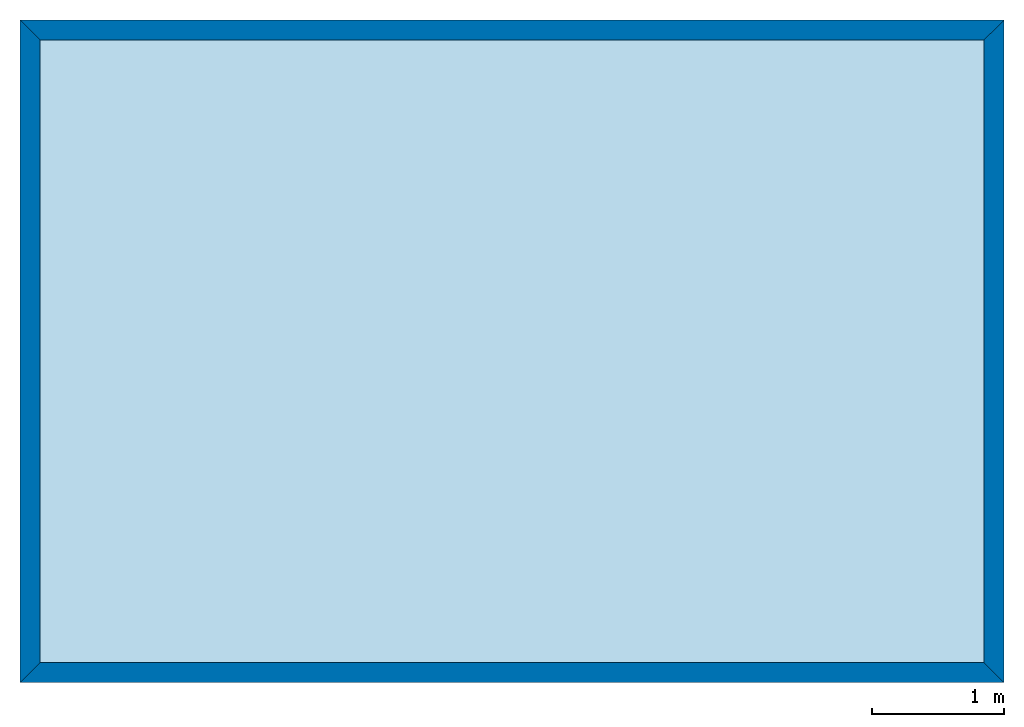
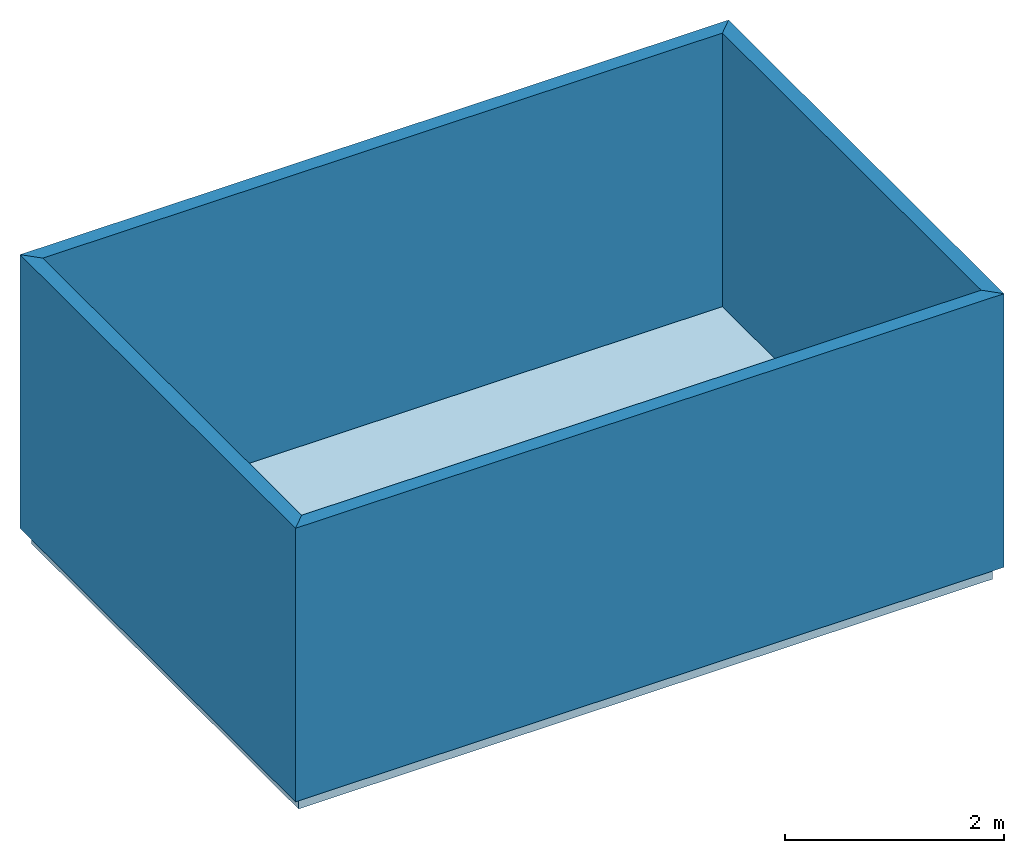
# One storey: 4 walls, 1 slab.
"""IFC4X3_ADD2 building model written with IfcOpenShell, lengths in inches."""

from ifc_helpers import new_model, entity, si_unit, converted_unit, frame, origin, place, context, project, spatial, polyline, outline, extrude, material, layer, layer_set, layer_usage, element, save


model = new_model("IFC4X3_ADD2")

# Units and contexts
model_context = context("Model", 3, precision=1e-05, world=origin())
plan_context = context("Plan", 2, precision=1e-05, world=origin())
ifc_project = project(units=[converted_unit("LENGTHUNIT", "inch", entity("IfcLengthMeasure", 0.0254), si_unit("LENGTHUNIT", "METRE"), dimensions=[1, 0, 0, 0, 0, 0, 0])], contexts=[model_context, plan_context])

# Site, building, storey
site_placement = place(None, origin())
site = spatial("IfcSite", under=ifc_project, at=site_placement, Name="Site #1", CompositionType="ELEMENT")
building_placement = place(site_placement, frame((576.0, 240.0, 48.0)))
building = spatial("IfcBuilding", under=site, at=building_placement, Name="Building #1", CompositionType="ELEMENT")
storey_placement = place(building_placement, origin())
storey = spatial("IfcBuildingStorey", under=building, at=storey_placement, Name="Ground Level", CompositionType="ELEMENT", Elevation=0.0)

# Slab
ifc_material = material(Name="Concrete (Nominal)", Category="Concrete")
ifc_layer = layer(ifc_material, 6.0, Name="Core")
ifc_layer_set = layer_set([ifc_layer])
ifc_layer_usage = layer_usage(ifc_layer_set, "AXIS3", "POSITIVE", 0.0)
slab_placement = place(storey_placement, origin())
element("IfcSlab", 1, at=slab_placement, inside=storey, material=ifc_layer_usage, Name="Slab #1", PredefinedType="BASESLAB", context=model_context, shape_type="SweptSolid", body=[
    extrude(outline(polyline([(0.0, 0.0), (288.0, 0.0), (288.0, 192.0), (0.0, 192.0), (0.0, 0.0)])), origin(), (0.0, 0.0, 1.0), 6.0),
])

# Walls
wall_1_placement = place(storey_placement, frame((0.0, 0.0, 6.0), z_axis=(0.0, 0.0, 1.0), x_axis=(0.0, 1.0, 0.0)))
element("IfcWall", 2, at=wall_1_placement, inside=storey, Name="Wall #1", PredefinedType="NOTDEFINED", context=model_context, shape_type="SweptSolid", body=[
    extrude(outline(polyline([(3.0, -3.0), (189.0, -3.0), (195.0, 3.0), (-3.0, 3.0), (3.0, -3.0)])), origin(), (0.0, 0.0, 1.0), 120.0),
])
wall_2_placement = place(storey_placement, frame((0.0, 192.0, 6.0), z_axis=(0.0, 0.0, 1.0), x_axis=(1.0, 0.0, 0.0)))
element("IfcWall", 3, at=wall_2_placement, inside=storey, Name="Wall #2", PredefinedType="NOTDEFINED", context=model_context, shape_type="SweptSolid", body=[
    extrude(outline(polyline([(3.0, -3.0), (285.0, -3.0), (291.0, 3.0), (-3.0, 3.0), (3.0, -3.0)])), origin(), (0.0, 0.0, 1.0), 120.0),
])
wall_3_placement = place(storey_placement, frame((288.0, 192.0, 6.0), z_axis=(0.0, 0.0, 1.0), x_axis=(0.0, -1.0, 0.0)))
element("IfcWall", 4, at=wall_3_placement, inside=storey, Name="Wall #3", PredefinedType="NOTDEFINED", context=model_context, shape_type="SweptSolid", body=[
    extrude(outline(polyline([(3.0, -3.0), (189.0, -3.0), (195.0, 3.0), (-3.0, 3.0), (3.0, -3.0)])), origin(), (0.0, 0.0, 1.0), 120.0),
])
wall_4_placement = place(storey_placement, frame((288.0, 0.0, 6.0), z_axis=(0.0, 0.0, 1.0), x_axis=(-1.0, 0.0, 0.0)))
element("IfcWall", 5, at=wall_4_placement, inside=storey, Name="Wall #4", PredefinedType="NOTDEFINED", context=model_context, shape_type="SweptSolid", body=[
    extrude(outline(polyline([(3.0, -3.0), (285.0, -3.0), (291.0, 3.0), (-3.0, 3.0), (3.0, -3.0)])), origin(), (0.0, 0.0, 1.0), 120.0),
])

save(model, "model.ifc")
